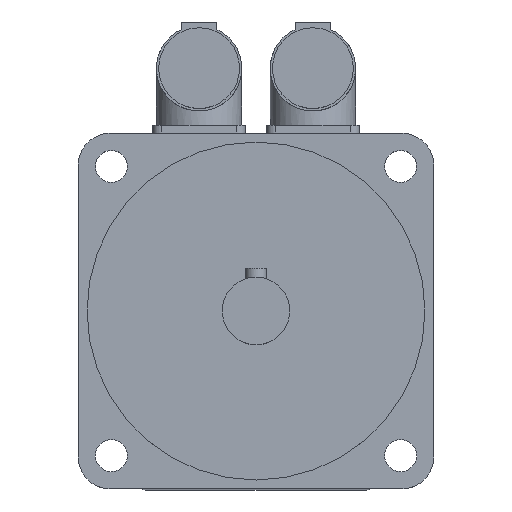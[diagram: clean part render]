
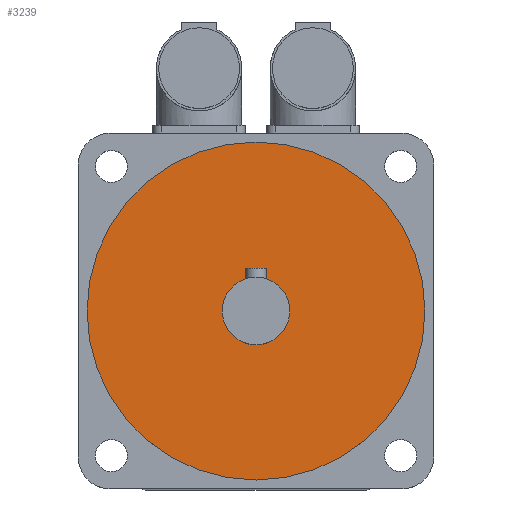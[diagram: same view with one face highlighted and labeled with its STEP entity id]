
A CAD part, top view. The second image highlights one B-rep face of the part: STEP entity #3239.
In plain terms, the highlighted planar face has unit normal (0, 0, 1).
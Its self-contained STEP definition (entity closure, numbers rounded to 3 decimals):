
#36=FACE_BOUND('',#567,.T.);
#71=PLANE('',#3478);
#182=CIRCLE('',#3473,9.5);
#183=CIRCLE('',#3476,47.5);
#368=FACE_OUTER_BOUND('',#566,.T.);
#566=EDGE_LOOP('',(#2309));
#567=EDGE_LOOP('',(#2310));
#1393=VERTEX_POINT('',#5230);
#1394=VERTEX_POINT('',#5234);
#1743=EDGE_CURVE('',#1393,#1393,#182,.T.);
#1744=EDGE_CURVE('',#1394,#1394,#183,.T.);
#2309=ORIENTED_EDGE('',*,*,#1744,.T.);
#2310=ORIENTED_EDGE('',*,*,#1743,.T.);
#3239=ADVANCED_FACE('',(#368,#36),#71,.F.);
#3473=AXIS2_PLACEMENT_3D('',#5231,#3962,#3963);
#3476=AXIS2_PLACEMENT_3D('',#5235,#3968,#3969);
#3478=AXIS2_PLACEMENT_3D('',#5238,#3972,#3973);
#3962=DIRECTION('center_axis',(0.,0.,-1.));
#3963=DIRECTION('ref_axis',(-1.,0.,0.));
#3968=DIRECTION('center_axis',(0.,0.,
1.));
#3969=DIRECTION('ref_axis',(-1.,0.,0.));
#3972=DIRECTION('center_axis',(0.,0.,-1.));
#3973=DIRECTION('ref_axis',(-1.,0.,0.));
#5230=CARTESIAN_POINT('',(9.5,0.,162.));
#5231=CARTESIAN_POINT('Origin',(0.,0.,
162.));
#5234=CARTESIAN_POINT('',(47.5,0.,162.));
#5235=CARTESIAN_POINT('Origin',(0.,0.,
162.));
#5238=CARTESIAN_POINT('Origin',(0.,0.,
162.));
